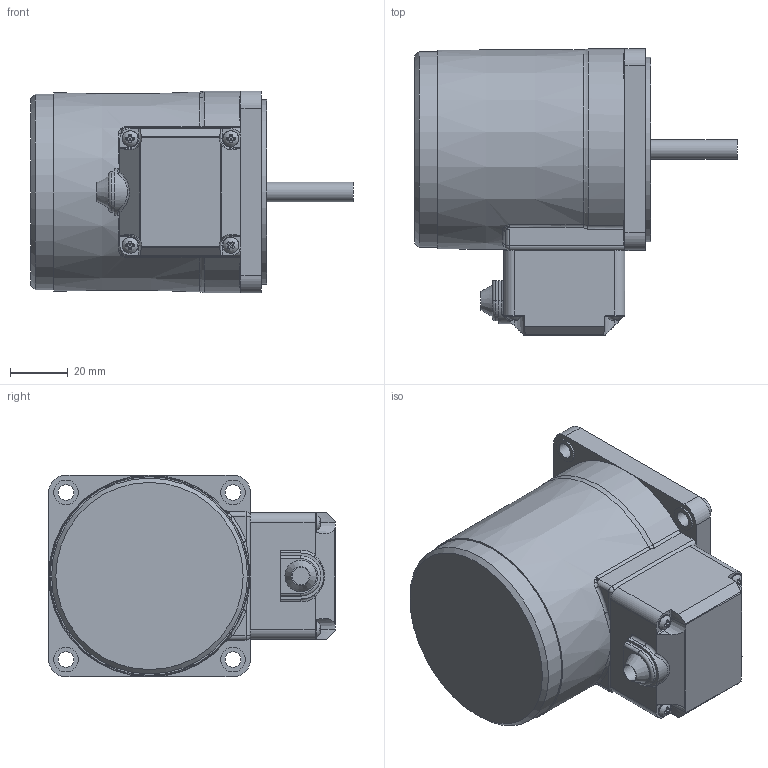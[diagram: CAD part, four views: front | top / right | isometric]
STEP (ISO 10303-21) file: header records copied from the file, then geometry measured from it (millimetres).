
FILE_DESCRIPTION((''),'2;1');
FILE_NAME('D:\STP파일\15W MOTOR\T BOX TYPE\S7R15S-T.stp','2013-05-20T16:30:03',('leebh'),(''),'Autodesk Inventor 2011','Autodesk Inventor 2011','');
FILE_SCHEMA(('AUTOMOTIVE_DESIGN { 1 0 10303 214 1 1 1 1 }'));
Length unit declared in the file: millimetre
Products named in the file (1): 부품2
Bounding box: 112 x 99.5 x 70 mm (x, y, z)
Volume: 344101.9 mm3; surface area: 44247.9 mm2
Topology: 1 solids, 6 shells, 305 faces, 783 edges, 500 vertices
Faces by surface type: plane 143, cylinder 96, bspline 35, torus 18, cone 11, sphere 2
Full cylindrical faces by diameter (mm): 3 x4, 3.5 x4, 3.8 x4, 5.5 x4, 5.6 x4, 6.7 x1, 8 x1, 8.5 x4, 28 x1, 64 x1, 68 x1
Entity records: 10255 total; most frequent: CARTESIAN_POINT 2963, ORIENTED_EDGE 1440, DIRECTION 1409, EDGE_CURVE 720, AXIS2_PLACEMENT_3D 537, VERTEX_POINT 489, EDGE_LOOP 389, VECTOR 335
